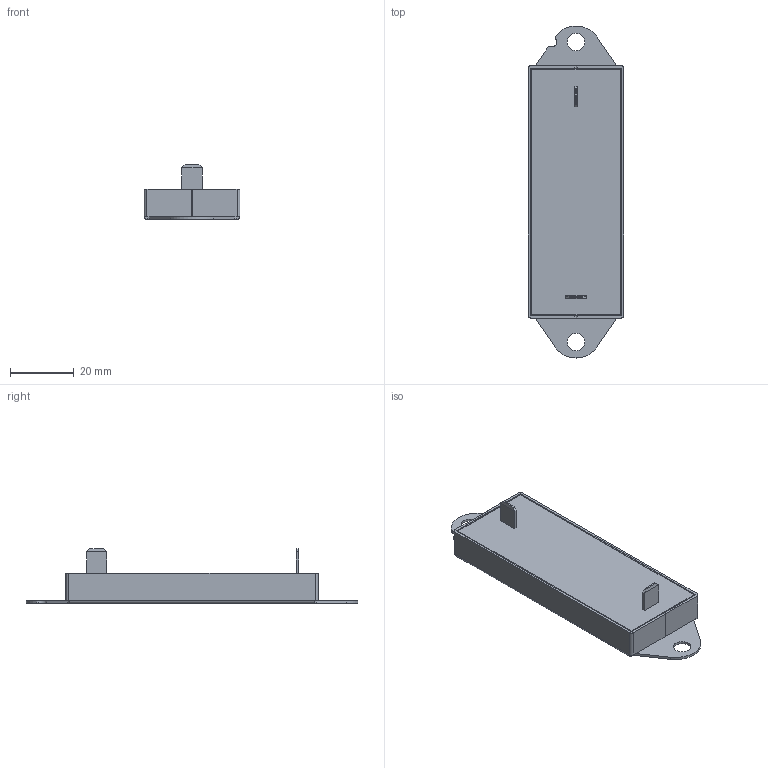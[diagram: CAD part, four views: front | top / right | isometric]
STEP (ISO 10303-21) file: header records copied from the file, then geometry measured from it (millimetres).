
FILE_DESCRIPTION(/* description */ ('STEP AP214'),/* implementation_level */ '2;1');
FILE_NAME(/* name */ '',/* time_stamp */ '2025-12-16T14:57:00+09:00',/* author */ (''),/* organization */ (''),/* preprocessor_version */ 'ST-DEVELOPER v20.1',/* originating_system */ 'Autodesk Translation Framework v14.21.0.0',/* authorisation */ '');
FILE_SCHEMA (('AUTOMOTIVE_DESIGN { 1 0 10303 214 3 1 1 }'));
Length unit declared in the file: millimetre
Products named in the file (1): Assem
Bounding box: 30 x 103.98 x 17.15 mm (x, y, z)
Volume: 22619.1 mm3; surface area: 7850.9 mm2
Topology: 1 solids, 1 shells, 88 faces, 229 edges, 146 vertices
Faces by surface type: plane 67, cylinder 21
Full cylindrical faces by diameter (mm): 5.5 x2
Entity records: 2766 total; most frequent: CARTESIAN_POINT 464, ORIENTED_EDGE 458, DIRECTION 457, EDGE_CURVE 229, LINE 179, VECTOR 179, VERTEX_POINT 146, AXIS2_PLACEMENT_3D 139
